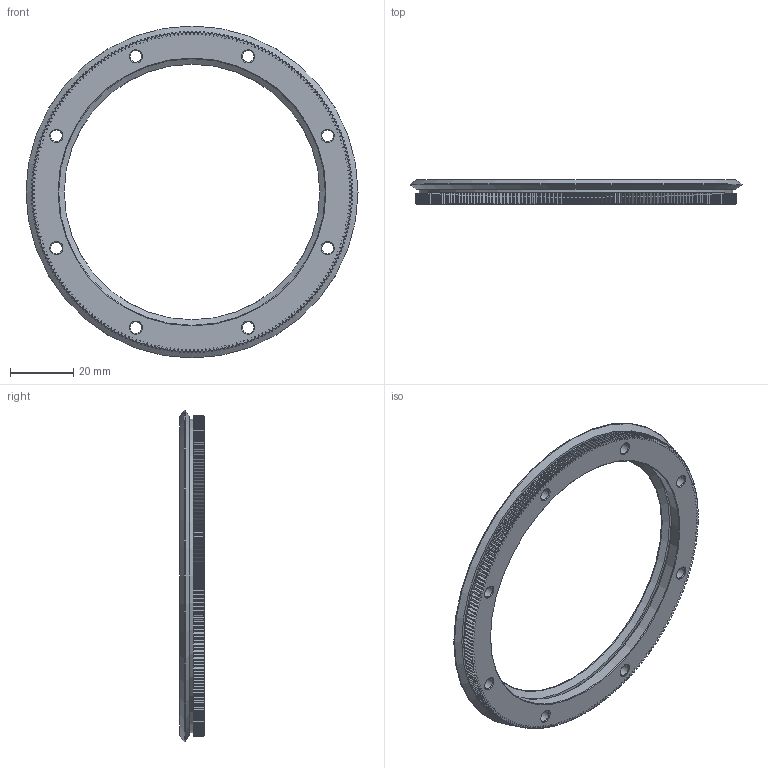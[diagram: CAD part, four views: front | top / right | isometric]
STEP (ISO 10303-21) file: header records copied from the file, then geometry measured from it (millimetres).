
FILE_DESCRIPTION( ( 'STEP AP203' ), '1' );
FILE_NAME( 'p:/temp/worker_56/temp/exporttempdir_3996_1835_RRjFf/format_0/R12 93 R360 P.stp', '2021-08-30T04:09:49', ( 'License CC BY-ND 4.0' ), ( 'CADENAS' ), ' ', 'PARTsolutions', ' ' );
FILE_SCHEMA( ( 'CONFIG_CONTROL_DESIGN' ) );
Length unit declared in the file: millimetre
Products named in the file (1): _R12 93 R360 P
Bounding box: 105.1 x 7.7 x 105.1 mm (x, y, z)
Volume: 18488.9 mm3; surface area: 13272.6 mm2
Topology: 1 solids, 1 shells, 1308 faces, 3869 edges, 2575 vertices
Faces by surface type: cylinder 522, plane 519, cone 265, torus 2
Full cylindrical faces by diameter (mm): 3.7 x8, 6 x8, 84.4 x1, 86.6 x1, 99.4 x1
Entity records: 44484 total; most frequent: CARTESIAN_POINT 9256, ORIENTED_EDGE 7670, DIRECTION 7262, EDGE_CURVE 3835, AXIS2_PLACEMENT_3D 2622, VERTEX_POINT 2576, LINE 2018, VECTOR 2018
